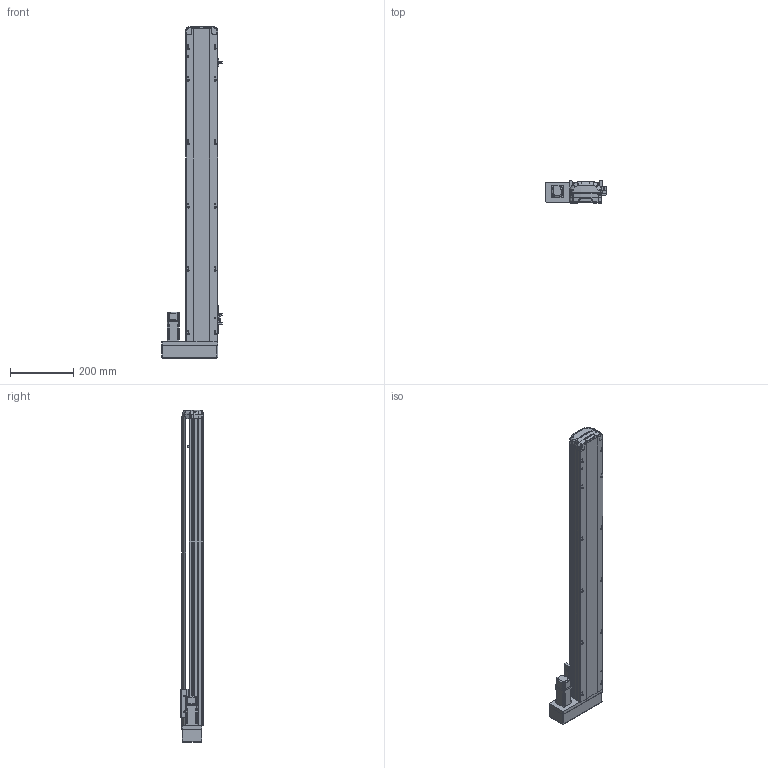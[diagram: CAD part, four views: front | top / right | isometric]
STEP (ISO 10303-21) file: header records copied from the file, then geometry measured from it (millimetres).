
FILE_DESCRIPTION (( 'STEP AP214' ), '1' );
FILE_NAME ('RTH10-XX-800-L-M10-C4.STEP', '2025-10-25T05:37:36', ( 'Microsoft' ), ( 'Microsoft' ), 'SwSTEP 2.0', 'SolidWorks 2018', '' );
FILE_SCHEMA (( 'AUTOMOTIVE_DESIGN' ));
Length unit declared in the file: millimetre
Products named in the file (10): N_RTH12-M-007P-奻裔^RTH10-XX-XX-L-M10-C4; N_RTH12-L-018-裔赽^RTH10-XX-XX-L-M10-C4; N_RTH12-L-008萇儂啣^RTH10-XX-XX-L-M10-C4; N_RTH13-L-012覜茼え俋离^RTH10-XX-XX-L-M10-C4; N_RTH12-GY-004-賑釱^RTH10-XX-XX-L-M10-C4; RTH10-XX-800-L-M10-C4; N_OMRON EE-SX672 传感器^RTH10-XX-XX-L-M10-C4; N_RTH12-GY-001P^RTH10-XX-XX-L-M10-C4; N_P10^RTH10-XX-XX-L-M10-C4; N_RTH12-M-011P-臏倰第菁釱^RTH10-XX-XX-L-M10-C4
Assembly tree (11 placements, depth 2):
  RTH10-XX-800-L-M10-C4
    N_RTH12-M-011P-臏倰第菁釱^RTH10-XX-XX-L-M10-C4
    N_RTH13-L-012覜茼え俋离^RTH10-XX-XX-L-M10-C4
    N_OMRON EE-SX672 传感器^RTH10-XX-XX-L-M10-C4  x3
    N_P10^RTH10-XX-XX-L-M10-C4
    N_RTH12-M-007P-奻裔^RTH10-XX-XX-L-M10-C4
    N_RTH12-L-008萇儂啣^RTH10-XX-XX-L-M10-C4
    N_RTH12-L-018-裔赽^RTH10-XX-XX-L-M10-C4
    N_RTH12-GY-004-賑釱^RTH10-XX-XX-L-M10-C4
    N_RTH12-GY-001P^RTH10-XX-XX-L-M10-C4
Bounding box: 190 x 70 x 1047.31 mm (x, y, z)
Volume: 4479431.6 mm3; surface area: 685949.3 mm2
Topology: 10 solids, 12 shells, 1940 faces, 5422 edges, 3557 vertices
Faces by surface type: plane 951, cylinder 482, bspline 472, cone 29, sphere 4, torus 2
Entity records: 58570 total; most frequent: CARTESIAN_POINT 23309, ORIENTED_EDGE 7916, DIRECTION 6084, EDGE_CURVE 3964, VERTEX_POINT 2601, LINE 2068, VECTOR 2068, AXIS2_PLACEMENT_3D 2008
